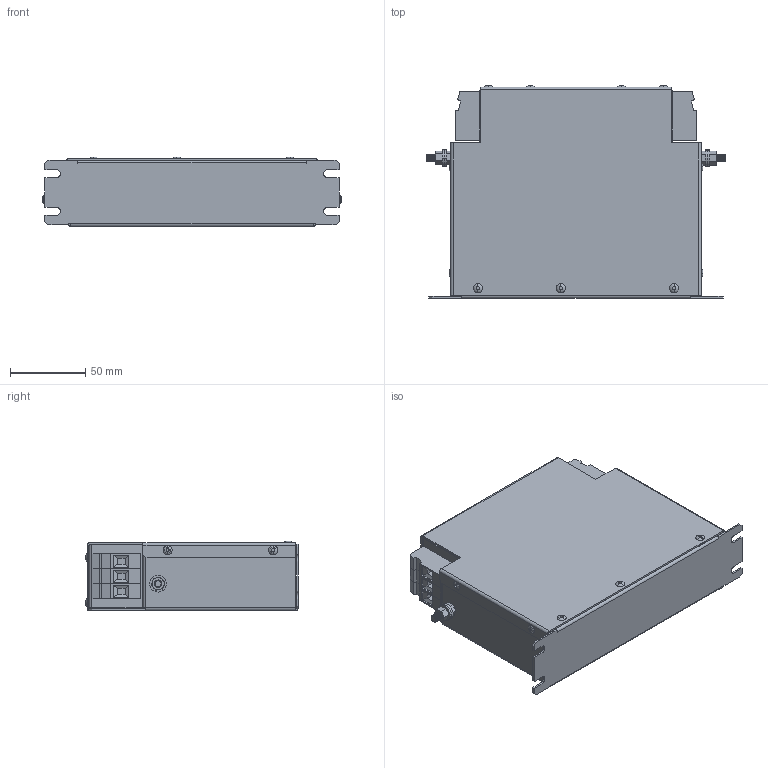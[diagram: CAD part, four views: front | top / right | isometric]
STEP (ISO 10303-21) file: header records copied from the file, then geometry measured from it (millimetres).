
FILE_DESCRIPTION (( 'STEP AP203' ), '1' );
FILE_NAME ('NF-CF-16 (B size).STEP', '2025-02-26T17:24:22', ( '' ), ( '' ), 'SwSTEP 2.0', 'SolidWorks 2017', '' );
FILE_SCHEMA (( 'CONFIG_CONTROL_DESIGN' ));
Length unit declared in the file: millimetre
Products named in the file (11): hex nut style 1_am_B18.2.4.1M - Hex nut, Style 1,  M5 x 0.8 --D-N; M5x20 Earth post; NF-CF-16 (B size); hex screw_am_B18.6.7M - M5 x 0.8 x 13 Indented HHMS --13S; flat washer narrow_am_B18.22M - Plain washer, 5 mm, narrow; NF-CF-16 (B case); NF-CF-16 (B lid); VDFK6x3; 3.5mm Rivet; VDFK-6; M4 Hank
Assembly tree (25 placements, depth 3):
  NF-CF-16 (B size)
    NF-CF-16 (B case)
    NF-CF-16 (B lid)
    VDFK6x3  x2
      VDFK-6
    M5x20 Earth post  x2
      flat washer narrow_am_B18.22M - Plain washer, 5 mm, narrow
      hex nut style 1_am_B18.2.4.1M - Hex nut, Style 1,  M5 x 0.8 --D-N
      hex screw_am_B18.6.7M - M5 x 0.8 x 13 Indented HHMS --13S
    3.5mm Rivet  x11
    M4 Hank
Bounding box: 197.6 x 141 x 46.3 mm (x, y, z)
Volume: 119511.4 mm3; surface area: 169733.4 mm2
Topology: 28 solids, 28 shells, 1008 faces, 2390 edges, 1478 vertices
Faces by surface type: plane 510, cylinder 272, cone 204, torus 22
Entity records: 15144 total; most frequent: DIRECTION 2471, CARTESIAN_POINT 2440, ORIENTED_EDGE 2230, EDGE_CURVE 1115, AXIS2_PLACEMENT_3D 903, VERTEX_POINT 680, VECTOR 665, LINE 665
